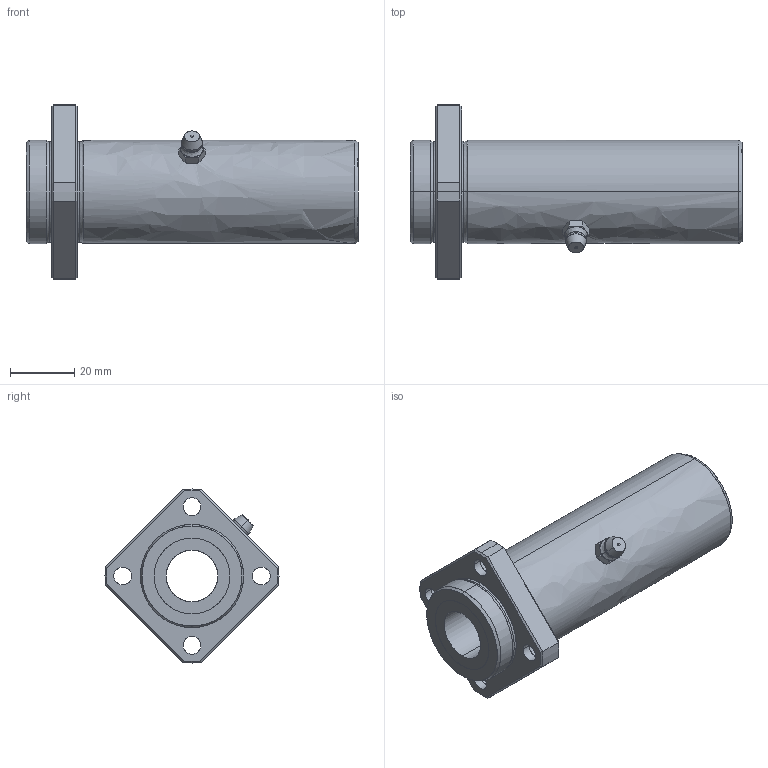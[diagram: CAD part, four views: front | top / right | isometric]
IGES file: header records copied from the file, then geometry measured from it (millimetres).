
Global section: file name: No Iges File Name specified; native system: AutoDesk Inventor R10; preprocessor: AutoDesk Inventor Iges Exporter R10; author: No Author specified; organization: No Organization specified; date: 20101211.163657; units: millimetre
Bounding box: 103 x 54 x 54 mm (x, y, z)
Surface area: 19745 mm2 (no closed solid volume)
Topology: 0 solids, 0 shells, 116 faces, 707 edges, 705 vertices
Faces by surface type: bspline 116
